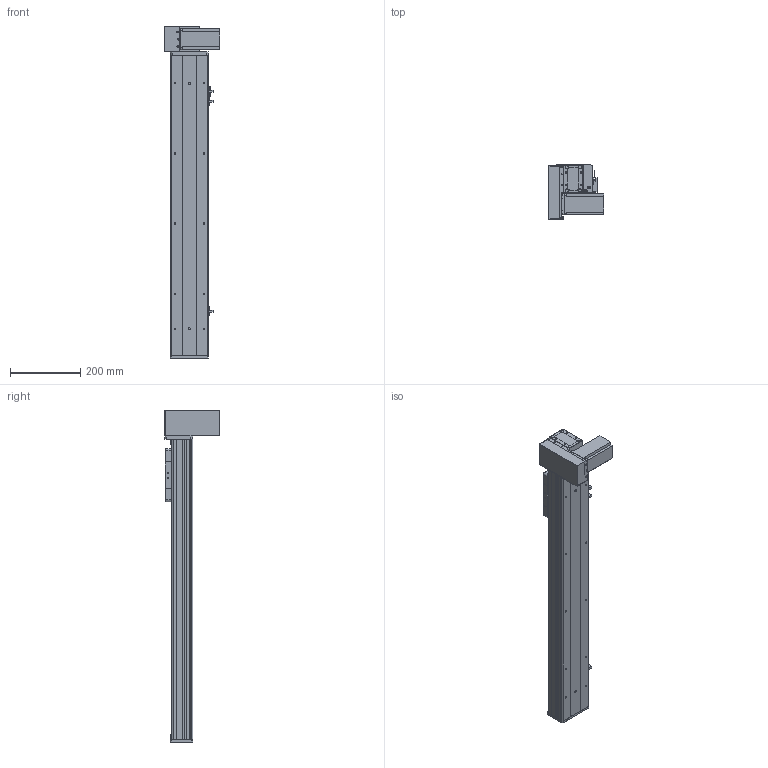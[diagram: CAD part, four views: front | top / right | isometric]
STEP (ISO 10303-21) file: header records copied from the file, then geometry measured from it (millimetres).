
FILE_DESCRIPTION (( 'STEP AP203' ), '1' );
FILE_NAME ('Y10CB-D90-S600-BM-P400W.STEP', '2020-02-16T08:52:16', ( '微软用户' ), ( '微软中国' ), 'SwSTEP 2.0', 'SolidWorks 2017', '' );
FILE_SCHEMA (( 'CONFIG_CONTROL_DESIGN' ));
Length unit declared in the file: millimetre
Products named in the file (18): 10CB-耜裔; 0B-萇儂楊擘啣; Y135C-陔俋离換覜結え-; san松下电机400不带刹车----; Y100-135俋离換覜ん--; 0B-源倛裔啣; Y10B--々湍喘謫眊--666; 0B-埴倛裔啣; 00B-俋欶BM--; 10CB-詩湍-; Y10B-耜蚾蟀諉啣----; Y10CB- 掛极耜裔啣-毀---; 0CB-雄赽釱---; Y10CB-D90-S600-BM-P400W; Y10C---詩湍揤啣; 0Cb-俋欶---; 10CB9-掛极; Y10B-々湍喘謫眊楊擘啣--
Assembly tree (21 placements, depth 2):
  Y10CB-D90-S600-BM-P400W
    0CB-雄赽釱---
    0Cb-俋欶---
    Y10B-々湍喘謫眊楊擘啣--
    0B-萇儂楊擘啣
    san松下电机400不带刹车----
    0B-源倛裔啣
    0B-埴倛裔啣
    10CB-詩湍-
    Y10CB- 掛极耜裔啣-毀---  x2
    Y10C---詩湍揤啣  x2
    10CB9-掛极
    10CB-耜裔
    Y135C-陔俋离換覜結え-
    Y100-135俋离換覜ん--  x3
    Y10B--々湍喘謫眊--666
    00B-俋欶BM--
    Y10B-耜蚾蟀諉啣----
Bounding box: 157 x 156 x 946 mm (x, y, z)
Volume: 2437881.1 mm3; surface area: 1059418.5 mm2
Topology: 21 solids, 21 shells, 966 faces, 2563 edges, 1682 vertices
Faces by surface type: plane 473, cylinder 469, cone 24
Entity records: 29912 total; most frequent: CARTESIAN_POINT 5173, DIRECTION 4862, ORIENTED_EDGE 4596, EDGE_CURVE 2298, AXIS2_PLACEMENT_3D 1741, VERTEX_POINT 1508, VECTOR 1380, LINE 1380
